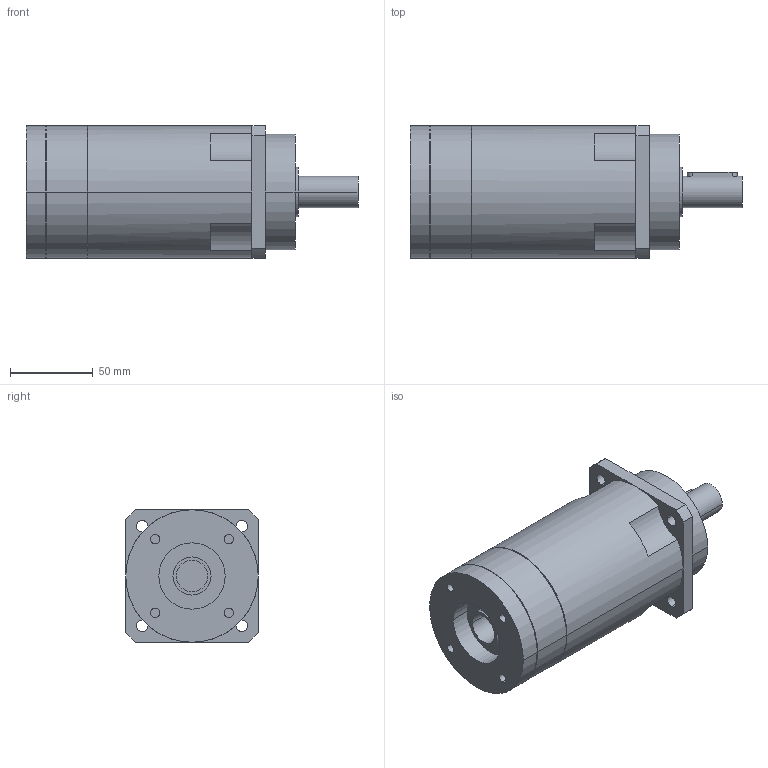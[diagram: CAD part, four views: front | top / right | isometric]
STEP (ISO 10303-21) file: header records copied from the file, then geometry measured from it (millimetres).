
FILE_DESCRIPTION(('CoCreate Modeling STEP Export'),'2;1');
FILE_NAME('GPR100_ig-48-64-80-100-120-144-180-216_19_B5_19_P17.stp','2014-08-26T11:56:57',(''),(''),'CoCreate Modeling STEP processor for AP214 (Solid Model)','CoCreate Modeling 16.00C 25-Feb-2009 (C) Parametric Technology GmbH','');
FILE_SCHEMA(('AUTOMOTIVE_DESIGN { 1 0 10303 214 1 1 1 1 }'));
Length unit declared in the file: millimetre
Products named in the file (2): GPR100_ig-48-64-80-100-120-144-180-216_19_B5_19_P17
Assembly tree (1 placements, depth 2):
  GPR100_ig-48-64-80-100-120-144-180-216_19_B5_19_P17
    GPR100_ig-48-64-80-100-120-144-180-216_19_B5_19_P17
Bounding box: 200.4 x 80 x 80 mm (x, y, z)
Volume: 782946 mm3; surface area: 62916.7 mm2
Topology: 1 solids, 1 shells, 93 faces, 245 edges, 169 vertices
Faces by surface type: cylinder 54, plane 33, cone 6
Entity records: 2549 total; most frequent: ORIENTED_EDGE 486, CARTESIAN_POINT 459, DIRECTION 366, EDGE_CURVE 243, VERTEX_POINT 169, AXIS2_PLACEMENT_3D 140, EDGE_LOOP 118, FACE_OUTER_BOUND 93
